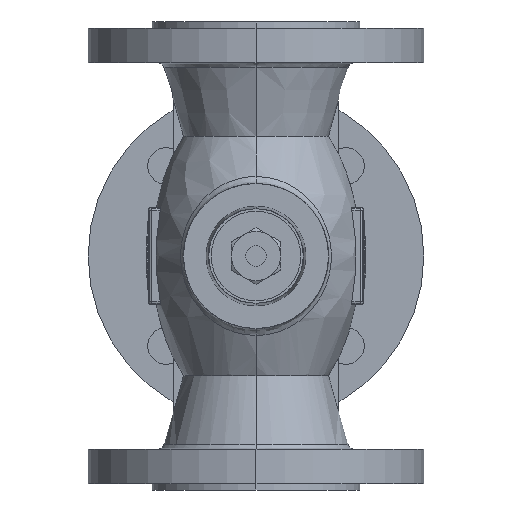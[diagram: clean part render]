
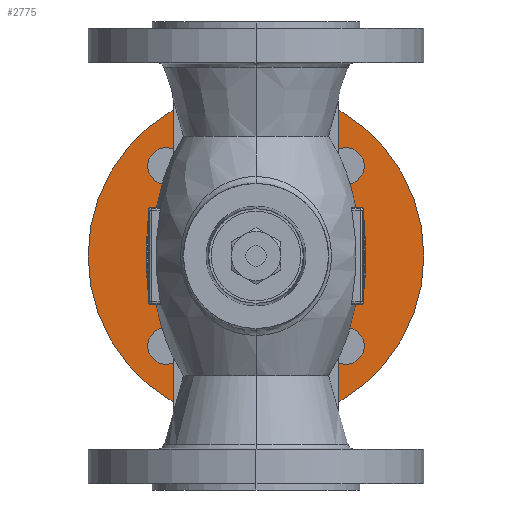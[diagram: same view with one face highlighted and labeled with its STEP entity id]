
A CAD part, front view. The second image highlights one B-rep face of the part: STEP entity #2775.
In plain terms, the highlighted planar face has unit normal (0, -1, 0).
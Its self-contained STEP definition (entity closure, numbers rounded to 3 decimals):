
#2275=CARTESIAN_POINT('',(0.,54.261,197.5));
#2276=VERTEX_POINT('',#2275);
#2285=CARTESIAN_POINT('',(0.,54.261,32.5));
#2286=VERTEX_POINT('',#2285);
#2287=CARTESIAN_POINT('',(0.,54.261,115.));
#2288=DIRECTION('',(0.0,-1.0,0.0));
#2289=DIRECTION('',(0.0,0.0,1.0));
#2290=AXIS2_PLACEMENT_3D('',#2287,#2288,#2289);
#2291=CIRCLE('',#2290,82.5);
#2292=EDGE_CURVE('',#2286,#2276,#2291,.T.);
#2319=CARTESIAN_POINT('',(-50.558,54.261,165.558));
#2320=VERTEX_POINT('',#2319);
#2336=CARTESIAN_POINT('',(-37.83,54.261,152.83));
#2337=VERTEX_POINT('',#2336);
#2344=CARTESIAN_POINT('',(-44.194,54.261,159.194));
#2345=DIRECTION('',(0.,1.0,0.));
#2346=DIRECTION('',(-0.707,0.,0.707));
#2347=AXIS2_PLACEMENT_3D('',#2344,#2345,#2346);
#2348=CIRCLE('',#2347,9.0);
#2349=EDGE_CURVE('',#2320,#2337,#2348,.T.);
#2361=CARTESIAN_POINT('',(-50.558,54.261,64.442));
#2362=VERTEX_POINT('',#2361);
#2378=CARTESIAN_POINT('',(-37.83,54.261,77.17));
#2379=VERTEX_POINT('',#2378);
#2386=CARTESIAN_POINT('',(-44.194,54.261,70.806));
#2387=DIRECTION('',(0.,1.0,0.));
#2388=DIRECTION('',(-0.707,0.,-0.707));
#2389=AXIS2_PLACEMENT_3D('',#2386,#2387,#2388);
#2390=CIRCLE('',#2389,9.0);
#2391=EDGE_CURVE('',#2362,#2379,#2390,.T.);
#2403=CARTESIAN_POINT('',(50.558,54.261,64.442));
#2404=VERTEX_POINT('',#2403);
#2420=CARTESIAN_POINT('',(37.83,54.261,77.17));
#2421=VERTEX_POINT('',#2420);
#2428=CARTESIAN_POINT('',(44.194,54.261,70.806));
#2429=DIRECTION('',(0.,1.0,0.));
#2430=DIRECTION('',(0.707,0.,-0.707));
#2431=AXIS2_PLACEMENT_3D('',#2428,#2429,#2430);
#2432=CIRCLE('',#2431,9.0);
#2433=EDGE_CURVE('',#2404,#2421,#2432,.T.);
#2445=CARTESIAN_POINT('',(50.558,54.261,165.558));
#2446=VERTEX_POINT('',#2445);
#2462=CARTESIAN_POINT('',(37.83,54.261,152.83));
#2463=VERTEX_POINT('',#2462);
#2470=CARTESIAN_POINT('',(44.194,54.261,159.194));
#2471=DIRECTION('',(0.,1.0,0.));
#2472=DIRECTION('',(0.707,0.,0.707));
#2473=AXIS2_PLACEMENT_3D('',#2470,#2471,#2472);
#2474=CIRCLE('',#2473,9.0);
#2475=EDGE_CURVE('',#2446,#2463,#2474,.T.);
#2529=CARTESIAN_POINT('',(0.,54.261,142.25));
#2530=VERTEX_POINT('',#2529);
#2546=CARTESIAN_POINT('',(0.,54.261,87.75));
#2547=VERTEX_POINT('',#2546);
#2554=CARTESIAN_POINT('',(0.,54.261,115.));
#2555=DIRECTION('',(0.0,1.0,0.0));
#2556=DIRECTION('',(0.0,0.0,1.0));
#2557=AXIS2_PLACEMENT_3D('',#2554,#2555,#2556);
#2558=CIRCLE('',#2557,27.25);
#2559=EDGE_CURVE('',#2530,#2547,#2558,.T.);
#2570=CARTESIAN_POINT('',(0.,54.261,115.));
#2571=DIRECTION('',(0.0,1.0,0.0));
#2572=DIRECTION('',(0.0,0.0,1.0));
#2573=AXIS2_PLACEMENT_3D('',#2570,#2571,#2572);
#2574=CIRCLE('',#2573,27.25);
#2575=EDGE_CURVE('',#2547,#2530,#2574,.T.);
#2632=CARTESIAN_POINT('',(44.194,54.261,159.194));
#2633=DIRECTION('',(0.,1.0,0.));
#2634=DIRECTION('',(0.707,0.,0.707));
#2635=AXIS2_PLACEMENT_3D('',#2632,#2633,#2634);
#2636=CIRCLE('',#2635,9.0);
#2637=EDGE_CURVE('',#2463,#2446,#2636,.T.);
#2656=CARTESIAN_POINT('',(44.194,54.261,70.806));
#2657=DIRECTION('',(0.,1.0,0.));
#2658=DIRECTION('',(0.707,0.,-0.707));
#2659=AXIS2_PLACEMENT_3D('',#2656,#2657,#2658);
#2660=CIRCLE('',#2659,9.0);
#2661=EDGE_CURVE('',#2421,#2404,#2660,.T.);
#2680=CARTESIAN_POINT('',(-44.194,54.261,70.806));
#2681=DIRECTION('',(0.,1.0,0.));
#2682=DIRECTION('',(-0.707,0.,-0.707));
#2683=AXIS2_PLACEMENT_3D('',#2680,#2681,#2682);
#2684=CIRCLE('',#2683,9.0);
#2685=EDGE_CURVE('',#2379,#2362,#2684,.T.);
#2704=CARTESIAN_POINT('',(-44.194,54.261,159.194));
#2705=DIRECTION('',(0.,1.0,0.));
#2706=DIRECTION('',(-0.707,0.,0.707));
#2707=AXIS2_PLACEMENT_3D('',#2704,#2705,#2706);
#2708=CIRCLE('',#2707,9.0);
#2709=EDGE_CURVE('',#2337,#2320,#2708,.T.);
#2736=CARTESIAN_POINT('',(0.,54.261,115.));
#2737=DIRECTION('',(0.0,-1.0,0.0));
#2738=DIRECTION('',(0.0,0.0,1.0));
#2739=AXIS2_PLACEMENT_3D('',#2736,#2737,#2738);
#2740=CIRCLE('',#2739,82.5);
#2741=EDGE_CURVE('',#2276,#2286,#2740,.T.);
#2746=CARTESIAN_POINT('',(0.,54.261,115.));
#2747=DIRECTION('',(0.0,-1.0,0.0));
#2748=DIRECTION('',(0.0,0.0,-1.0));
#2749=AXIS2_PLACEMENT_3D('',#2746,#2747,#2748);
#2750=PLANE('',#2749);
#2751=ORIENTED_EDGE('',*,*,#2741,.T.);
#2752=ORIENTED_EDGE('',*,*,#2292,.T.);
#2753=EDGE_LOOP('',(#2751,#2752));
#2754=FACE_OUTER_BOUND('',#2753,.T.);
#2755=ORIENTED_EDGE('',*,*,#2575,.T.);
#2756=ORIENTED_EDGE('',*,*,#2559,.T.);
#2757=EDGE_LOOP('',(#2755,#2756));
#2758=FACE_BOUND('',#2757,.T.);
#2759=ORIENTED_EDGE('',*,*,#2475,.T.);
#2760=ORIENTED_EDGE('',*,*,#2637,.T.);
#2761=EDGE_LOOP('',(#2759,#2760));
#2762=FACE_BOUND('',#2761,.T.);
#2763=ORIENTED_EDGE('',*,*,#2433,.T.);
#2764=ORIENTED_EDGE('',*,*,#2661,.T.);
#2765=EDGE_LOOP('',(#2763,#2764));
#2766=FACE_BOUND('',#2765,.T.);
#2767=ORIENTED_EDGE('',*,*,#2391,.T.);
#2768=ORIENTED_EDGE('',*,*,#2685,.T.);
#2769=EDGE_LOOP('',(#2767,#2768));
#2770=FACE_BOUND('',#2769,.T.);
#2771=ORIENTED_EDGE('',*,*,#2349,.T.);
#2772=ORIENTED_EDGE('',*,*,#2709,.T.);
#2773=EDGE_LOOP('',(#2771,#2772));
#2774=FACE_BOUND('',#2773,.T.);
#2775=ADVANCED_FACE('',(#2754,#2758,#2762,#2766,#2770,#2774),#2750,.T.);
